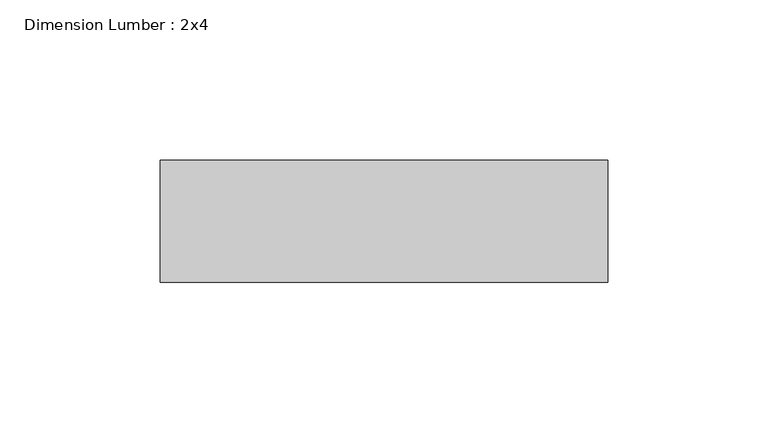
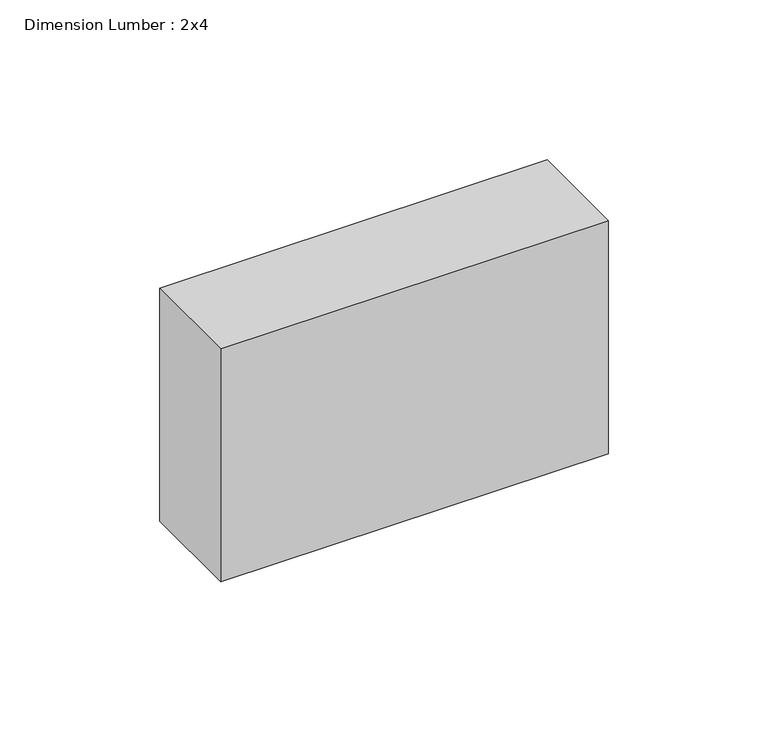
"""IFC4 building model written with IfcOpenShell, lengths in millimetres: beam geometry, Dimension Lumber : 2x4."""

from ifc_helpers import new_model, si_unit, frame, origin, place, context, project, spatial, polyline, outline, extrude, source, transform, mapped, element, save


def dimension_lumber_2x4_cff4dd80(model_context):
    return source(origin(), model_context, "Body", "SweptSolid", [
        extrude(outline(polyline([(69.85, 19.05), (69.85, -19.05), (-69.85, -19.05), (-69.85, 19.05), (69.85, 19.05)])), frame((0.0, 0.0, -44.45), z_axis=(0.0, 0.0, 1.0), x_axis=(1.0, 0.0, 0.0)), (0.0, 0.0, 1.0), 88.9),
    ])


if __name__ == "__main__":
    model = new_model("IFC4")
    model_context = context("Model", 3, world=origin())
    ifc_project = project(units=[si_unit("LENGTHUNIT", "METRE", prefix="MILLI")], contexts=[model_context])
    site = spatial("IfcSite", under=ifc_project)
    building = spatial("IfcBuilding", under=site)
    placement = place(None, origin())
    dimension_lumber_2x4_shape = dimension_lumber_2x4_cff4dd80(model_context)
    element("IfcBeam", 1, ObjectType="Dimension Lumber : 2x4", at=placement, inside=building, context=model_context, shape_type="MappedRepresentation", body=[
        mapped(dimension_lumber_2x4_shape, transform((0.0, 0.0, 0.0), x_axis=(1.0, 0.0, 0.0), y_axis=(0.0, 1.0, 0.0), z_axis=(0.0, 0.0, 1.0))),
    ])
    save(model, "model.ifc")
